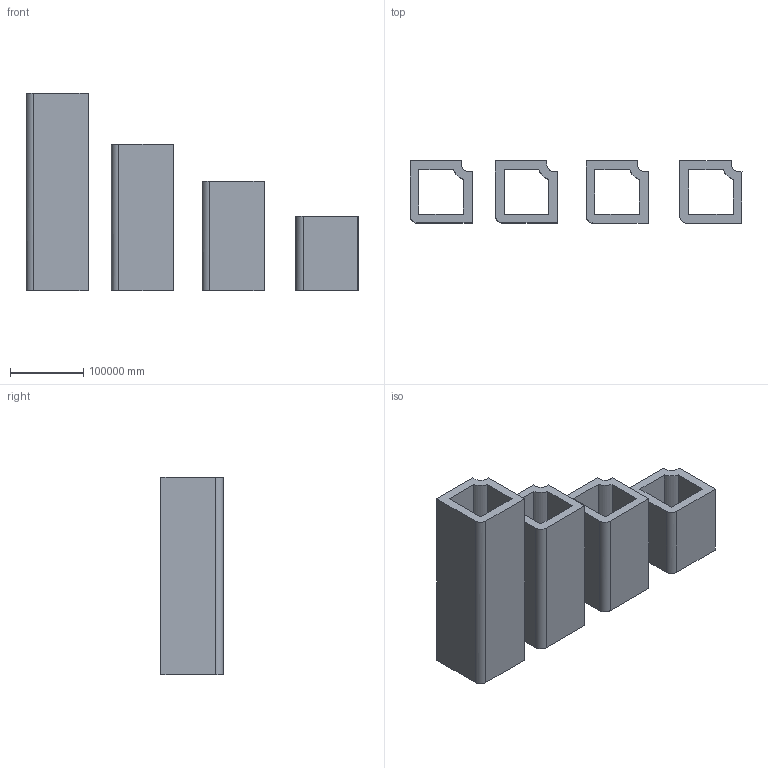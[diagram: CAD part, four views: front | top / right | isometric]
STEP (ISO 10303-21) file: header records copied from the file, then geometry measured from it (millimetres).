
FILE_DESCRIPTION(/* description */ (''),/* implementation_level */ '2;1');
FILE_NAME(/* name */ 'CORNER_90SQUARE_FERRES',/* time_stamp */ '2023-09-19T16:03:29+02:00',/* author */ (''),/* organization */ (''),/* preprocessor_version */ 'ST-DEVELOPER v16.5',/* originating_system */ 'Rhino 7.15',/* authorisation */ '');
FILE_SCHEMA (('AUTOMOTIVE_DESIGN'));
Length unit declared in the file: metre
Products named in the file (1): Document
Bounding box: 453385.58 x 84853.24 x 270000 mm (x, y, z)
Volume: 2452076055954041 mm3; surface area: 436250171140.6 mm2
Topology: 4 solids, 4 shells, 60 faces, 156 edges, 104 vertices
Faces by surface type: bspline 60
Entity records: 3425 total; most frequent: CARTESIAN_POINT 1594, ORIENTED_EDGE 312, PCURVE 312, DEFINITIONAL_REPRESENTATION 312, B_SPLINE_CURVE_WITH_KNOTS 208, SURFACE_CURVE 156, EDGE_CURVE 156, VERTEX_POINT 104
